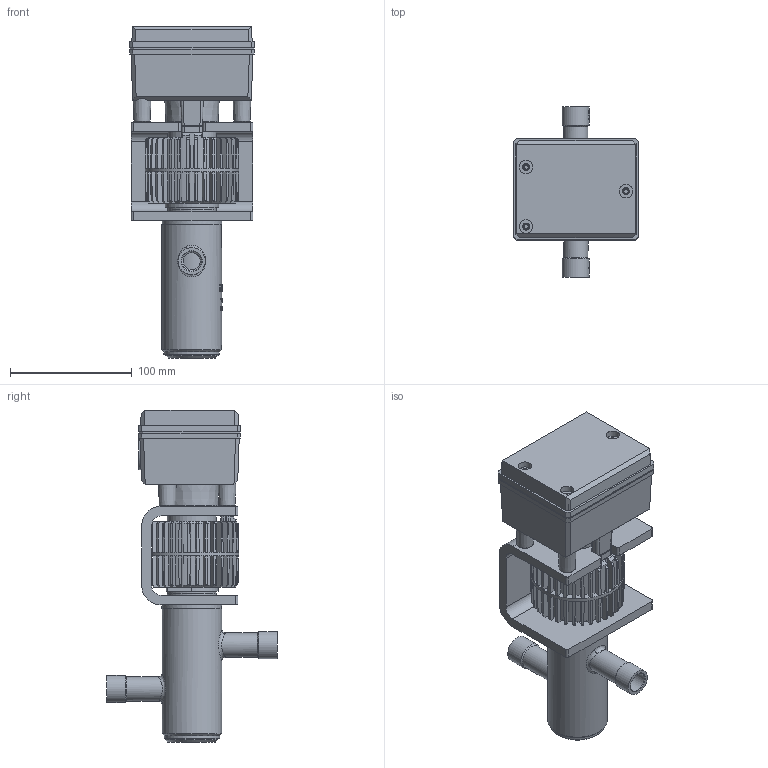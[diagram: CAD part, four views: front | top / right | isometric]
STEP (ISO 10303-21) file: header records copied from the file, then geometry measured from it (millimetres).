
FILE_DESCRIPTION(/* description */ (''),/* implementation_level */ '2;1');
FILE_NAME(/* name */ 'mvs15.stp',/* time_stamp */ '2011-01-11T07:16:18+01:00',/* author */ (''),/* organization */ (''),/* preprocessor_version */ 'ST-DEVELOPER v11',/* originating_system */ 'SIEMENS UGS NX 6.0',/* authorisation */ '');
FILE_SCHEMA (('AUTOMOTIVE_DESIGN { 1 0 10303 214 1 1 1 1 }'));
Length unit declared in the file: millimetre
Products named in the file (1): styg7A75uh3i
Bounding box: 102.2 x 140 x 272.5 mm (x, y, z)
Volume: 1123248.6 mm3; surface area: 156342.9 mm2
Topology: 1 solids, 2 shells, 972 faces, 2592 edges, 1687 vertices
Faces by surface type: plane 484, cone 252, extrusion 126, cylinder 106, bspline 4
Full cylindrical faces by diameter (mm): 1.6 x2, 3.432 x3, 4.5 x3, 5.7 x3, 11 x3, 14 x2, 16.2 x2, 17 x3, 20 x2, 22.2 x2, 38 x1, 39.7 x1, 40 x2, 40.1 x1, 43 x1, 45.5 x1, 49 x2
Entity records: 33536 total; most frequent: CARTESIAN_POINT 10430, ORIENTED_EDGE 5018, DIRECTION 4336, EDGE_CURVE 2509, VERTEX_POINT 1663, AXIS2_PLACEMENT_3D 1587, VECTOR 1162, EDGE_LOOP 1114
